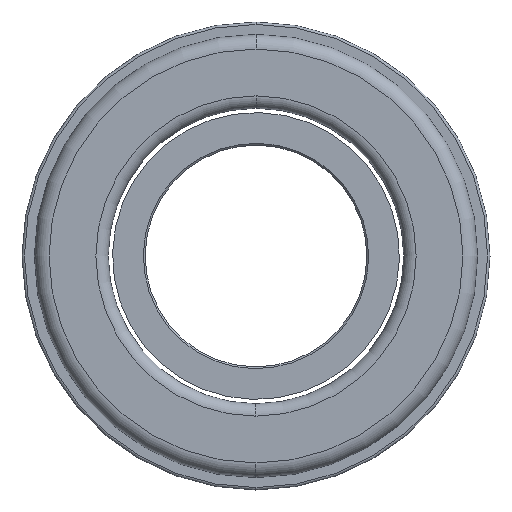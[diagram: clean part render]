
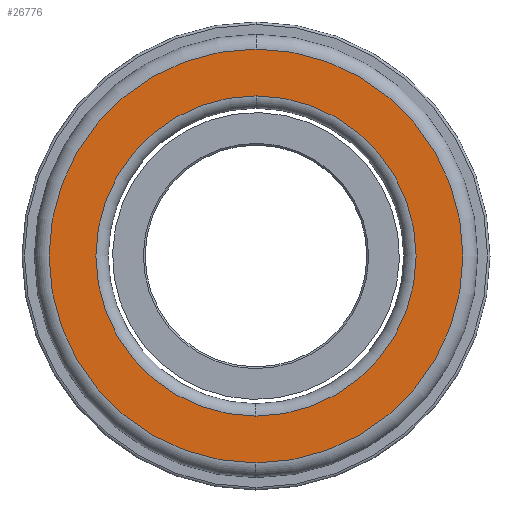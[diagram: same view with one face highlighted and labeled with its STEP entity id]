
A CAD part, left-side view. The second image highlights one B-rep face of the part: STEP entity #26776.
In plain terms, the highlighted planar face has unit normal (-1, 0, 0).
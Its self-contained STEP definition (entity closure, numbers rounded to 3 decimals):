
#578 = CARTESIAN_POINT ( 'NONE',  ( 0., 0., 0. ) ) ;
#1048 = CIRCLE ( 'NONE', #3018, 16.8 ) ;
#1365 = FACE_BOUND ( 'NONE', #24906, .T. ) ;
#1960 = VERTEX_POINT ( 'NONE', #19214 ) ;
#2922 = DIRECTION ( 'NONE',  ( 0., 0., 1. ) ) ;
#3018 = AXIS2_PLACEMENT_3D ( 'NONE', #12429, #28711, #14760 ) ;
#3830 = VERTEX_POINT ( 'NONE', #4006 ) ;
#4006 = CARTESIAN_POINT ( 'NONE',  ( 0., 0., 13. ) ) ;
#5075 = DIRECTION ( 'NONE',  ( -1., 0., 0. ) ) ;
#5251 = CARTESIAN_POINT ( 'NONE',  ( 0., 16.8, 0. ) ) ;
#6496 = VERTEX_POINT ( 'NONE', #9466 ) ;
#7076 = EDGE_CURVE ( 'NONE', #1960, #3830, #16875, .T. ) ;
#7225 = CIRCLE ( 'NONE', #20755, 13. ) ;
#7552 = FACE_OUTER_BOUND ( 'NONE', #15881, .T. ) ;
#7589 = PLANE ( 'NONE',  #19076 ) ;
#8179 = CARTESIAN_POINT ( 'NONE',  ( 0., 0., 0. ) ) ;
#8241 = AXIS2_PLACEMENT_3D ( 'NONE', #19013, #5075, #21344 ) ;
#8830 = EDGE_CURVE ( 'NONE', #3830, #1960, #7225, .T. ) ;
#8869 = EDGE_CURVE ( 'NONE', #6496, #27883, #1048, .T. ) ;
#9466 = CARTESIAN_POINT ( 'NONE',  ( 0., 0., 16.8 ) ) ;
#10542 = DIRECTION ( 'NONE',  ( 0., 0., 1. ) ) ;
#12429 = CARTESIAN_POINT ( 'NONE',  ( 0., 0., 0. ) ) ;
#13142 = EDGE_CURVE ( 'NONE', #27883, #6496, #26470, .T. ) ;
#14760 = DIRECTION ( 'NONE',  ( 0., 0., 1. ) ) ;
#15881 = EDGE_LOOP ( 'NONE', ( #22062, #25571 ) ) ;
#16875 = CIRCLE ( 'NONE', #8241, 13. ) ;
#16887 = DIRECTION ( 'NONE',  ( -1., 0., 0. ) ) ;
#19013 = CARTESIAN_POINT ( 'NONE',  ( 0., 0., 0. ) ) ;
#19076 = AXIS2_PLACEMENT_3D ( 'NONE', #5251, #23814, #23923 ) ;
#19214 = CARTESIAN_POINT ( 'NONE',  ( 0., 0., -13. ) ) ;
#20755 = AXIS2_PLACEMENT_3D ( 'NONE', #578, #16887, #2922 ) ;
#21344 = DIRECTION ( 'NONE',  ( 0., 0., 1. ) ) ;
#22062 = ORIENTED_EDGE ( 'NONE', *, *, #8869, .T. ) ;
#22425 = ORIENTED_EDGE ( 'NONE', *, *, #8830, .F. ) ;
#23523 = CARTESIAN_POINT ( 'NONE',  ( 0., 0., -16.8 ) ) ;
#23814 = DIRECTION ( 'NONE',  ( 1., 0., 0. ) ) ;
#23923 = DIRECTION ( 'NONE',  ( 0., 0., -1. ) ) ;
#24497 = DIRECTION ( 'NONE',  ( -1., 0., 0. ) ) ;
#24906 = EDGE_LOOP ( 'NONE', ( #22425, #28102 ) ) ;
#25571 = ORIENTED_EDGE ( 'NONE', *, *, #13142, .T. ) ;
#26470 = CIRCLE ( 'NONE', #30002, 16.8 ) ;
#26776 = ADVANCED_FACE ( 'NONE', ( #1365, #7552 ), #7589, .F. ) ;
#27883 = VERTEX_POINT ( 'NONE', #23523 ) ;
#28102 = ORIENTED_EDGE ( 'NONE', *, *, #7076, .F. ) ;
#28711 = DIRECTION ( 'NONE',  ( -1., 0., 0. ) ) ;
#30002 = AXIS2_PLACEMENT_3D ( 'NONE', #8179, #24497, #10542 ) ;
